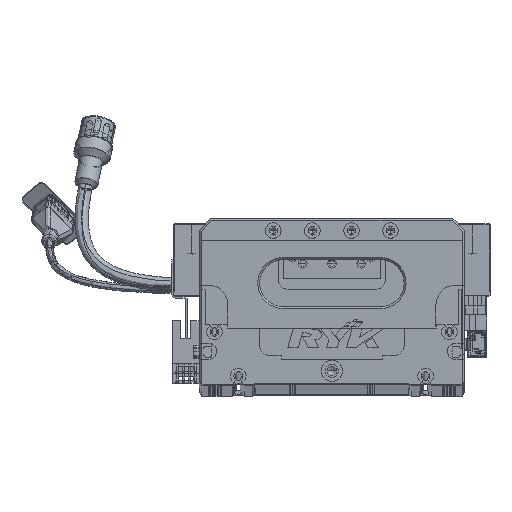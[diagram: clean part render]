
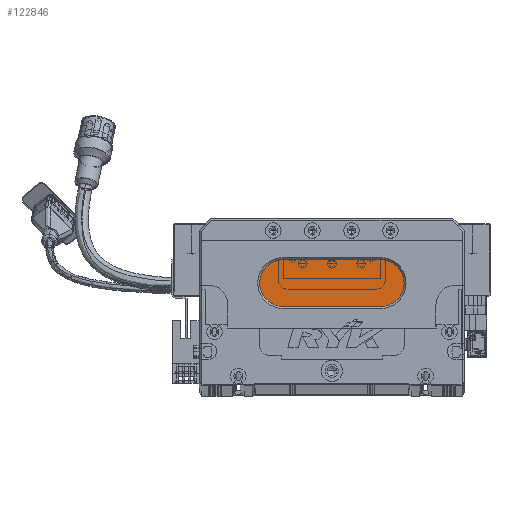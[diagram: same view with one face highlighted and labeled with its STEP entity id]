
A CAD part, top view. The second image highlights one B-rep face of the part: STEP entity #122846.
In plain terms, the highlighted planar face has unit normal (0, 0, 1) as drawn and (0, 0, -1) by its records, which use the part's own axes.
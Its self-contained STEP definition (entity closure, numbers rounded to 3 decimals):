
#965 = CIRCLE ( 'NONE', #121584, 12. ) ;
#2749 = DIRECTION ( 'NONE',  ( 0., 0., -1. ) ) ;
#3784 = CARTESIAN_POINT ( 'NONE',  ( 43., 40., 13. ) ) ;
#11138 = DIRECTION ( 'NONE',  ( 1., 0., 0. ) ) ;
#15307 = EDGE_CURVE ( 'NONE', #43643, #114069, #27659, .T. ) ;
#17426 = FACE_OUTER_BOUND ( 'NONE', #34531, .T. ) ;
#23712 = EDGE_CURVE ( 'NONE', #110443, #140950, #72206, .T. ) ;
#24823 = AXIS2_PLACEMENT_3D ( 'NONE', #120217, #109533, #131431 ) ;
#27659 = LINE ( 'NONE', #101268, #107705 ) ;
#28840 = ORIENTED_EDGE ( 'NONE', *, *, #15307, .T. ) ;
#32804 = CARTESIAN_POINT ( 'NONE',  ( 93., 40., 13. ) ) ;
#33227 = DIRECTION ( 'NONE',  ( -1., 0., 0. ) ) ;
#34406 = CARTESIAN_POINT ( 'NONE',  ( 43., 64., 13. ) ) ;
#34531 = EDGE_LOOP ( 'NONE', ( #144472, #112862, #82224, #125747, #28840 ) ) ;
#35393 = DIRECTION ( 'NONE',  ( -1., 0., 0. ) ) ;
#41971 = CARTESIAN_POINT ( 'NONE',  ( 43., 52., 13. ) ) ;
#43423 = PLANE ( 'NONE',  #129302 ) ;
#43643 = VERTEX_POINT ( 'NONE', #34406 ) ;
#46225 = CARTESIAN_POINT ( 'NONE',  ( 93., 52., 13. ) ) ;
#48872 = AXIS2_PLACEMENT_3D ( 'NONE', #41971, #119773, #87228 ) ;
#67338 = CARTESIAN_POINT ( 'NONE',  ( 93., 64., 13. ) ) ;
#69414 = CARTESIAN_POINT ( 'NONE',  ( 93., 40., 13. ) ) ;
#72206 = CIRCLE ( 'NONE', #48872, 12. ) ;
#82224 = ORIENTED_EDGE ( 'NONE', *, *, #23712, .T. ) ;
#87228 = DIRECTION ( 'NONE',  ( -1., 0., 0. ) ) ;
#90204 = EDGE_CURVE ( 'NONE', #140950, #43643, #96080, .T. ) ;
#91907 = LINE ( 'NONE', #69414, #140550 ) ;
#96080 = CIRCLE ( 'NONE', #24823, 12. ) ;
#101268 = CARTESIAN_POINT ( 'NONE',  ( 93., 64., 13. ) ) ;
#107705 = VECTOR ( 'NONE', #11138, 1000. ) ;
#109533 = DIRECTION ( 'NONE',  ( 0., 0., -1. ) ) ;
#110443 = VERTEX_POINT ( 'NONE', #3784 ) ;
#112862 = ORIENTED_EDGE ( 'NONE', *, *, #140540, .T. ) ;
#114069 = VERTEX_POINT ( 'NONE', #67338 ) ;
#119131 = VERTEX_POINT ( 'NONE', #32804 ) ;
#119773 = DIRECTION ( 'NONE',  ( 0., 0., -1. ) ) ;
#120217 = CARTESIAN_POINT ( 'NONE',  ( 43., 52., 13. ) ) ;
#121246 = CARTESIAN_POINT ( 'NONE',  ( 93., 52., 13. ) ) ;
#121584 = AXIS2_PLACEMENT_3D ( 'NONE', #46225, #2749, #123552 ) ;
#122214 = DIRECTION ( 'NONE',  ( 0., 0., -1. ) ) ;
#122846 = ADVANCED_FACE ( 'NONE', ( #17426 ), #43423, .T. ) ;
#123552 = DIRECTION ( 'NONE',  ( -1., 0., 0. ) ) ;
#125747 = ORIENTED_EDGE ( 'NONE', *, *, #90204, .T. ) ;
#129302 = AXIS2_PLACEMENT_3D ( 'NONE', #121246, #122214, #33227 ) ;
#131431 = DIRECTION ( 'NONE',  ( -1., 0., 0. ) ) ;
#132984 = CARTESIAN_POINT ( 'NONE',  ( 31., 52., 13. ) ) ;
#140540 = EDGE_CURVE ( 'NONE', #119131, #110443, #91907, .T. ) ;
#140550 = VECTOR ( 'NONE', #35393, 1000. ) ;
#140950 = VERTEX_POINT ( 'NONE', #132984 ) ;
#141583 = EDGE_CURVE ( 'NONE', #114069, #119131, #965, .T. ) ;
#144472 = ORIENTED_EDGE ( 'NONE', *, *, #141583, .T. ) ;
